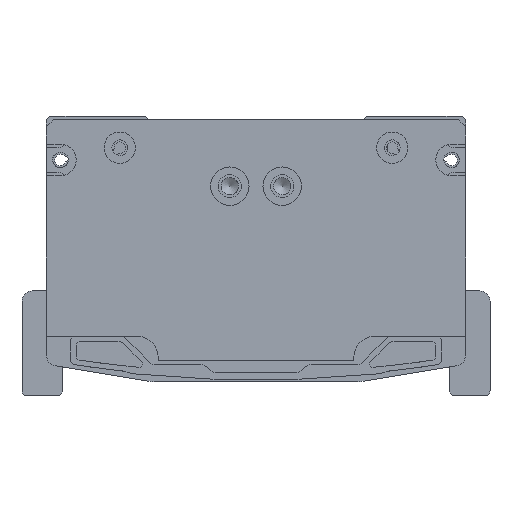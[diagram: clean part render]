
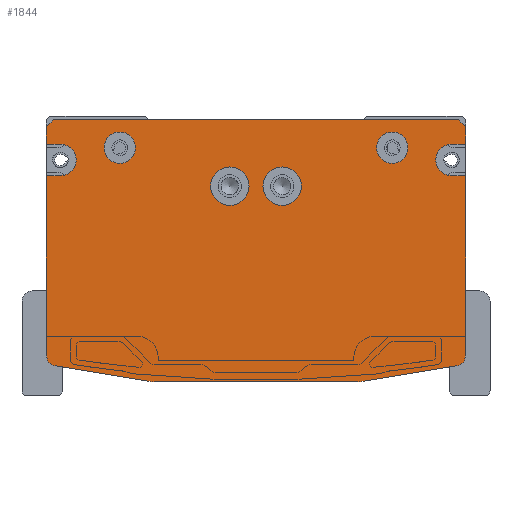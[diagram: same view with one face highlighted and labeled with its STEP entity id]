
A CAD part, front view. The second image highlights one B-rep face of the part: STEP entity #1844.
In plain terms, the highlighted planar face has unit normal (0, -1, 0).
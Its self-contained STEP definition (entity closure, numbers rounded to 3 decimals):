
#956=FACE_BOUND('',#3627,.T.);
#957=FACE_BOUND('',#3628,.T.);
#958=FACE_BOUND('',#3629,.T.);
#959=FACE_BOUND('',#3630,.T.);
#960=FACE_BOUND('',#3631,.T.);
#1844=ADVANCED_FACE('',(#956,#957,#958,#959,#960),#2454,.F.);
#2454=PLANE('',#15338);
#3627=EDGE_LOOP('',(#7138));
#3628=EDGE_LOOP('',(#7139));
#3629=EDGE_LOOP('',(#7140,#7141,#7142,#7143,#7144,#7145,#7146,#7147,#7148,
#7149,#7150,#7151,#7152,#7153,#7154,#7155,#7156,#7157,#7158,#7159));
#3630=EDGE_LOOP('',(#7160));
#3631=EDGE_LOOP('',(#7161));
#4679=CIRCLE('',#15239,5.5);
#4683=CIRCLE('',#15246,5.5);
#4686=CIRCLE('',#15252,4.5);
#4690=CIRCLE('',#15259,4.5);
#4697=CIRCLE('',#15277,4.5);
#4700=CIRCLE('',#15286,3.);
#4703=CIRCLE('',#15291,10.);
#4704=CIRCLE('',#15294,10.);
#4707=CIRCLE('',#15299,3.);
#4715=CIRCLE('',#15326,4.5);
#7138=ORIENTED_EDGE('',*,*,#11584,.T.);
#7139=ORIENTED_EDGE('',*,*,#11588,.T.);
#7140=ORIENTED_EDGE('',*,*,#11649,.T.);
#7141=ORIENTED_EDGE('',*,*,#11645,.F.);
#7142=ORIENTED_EDGE('',*,*,#11643,.F.);
#7143=ORIENTED_EDGE('',*,*,#11640,.F.);
#7144=ORIENTED_EDGE('',*,*,#11636,.T.);
#7145=ORIENTED_EDGE('',*,*,#11633,.T.);
#7146=ORIENTED_EDGE('',*,*,#11290,.F.);
#7147=ORIENTED_EDGE('',*,*,#11619,.T.);
#7148=ORIENTED_EDGE('',*,*,#11616,.T.);
#7149=ORIENTED_EDGE('',*,*,#11614,.F.);
#7150=ORIENTED_EDGE('',*,*,#11286,.F.);
#7151=ORIENTED_EDGE('',*,*,#11610,.T.);
#7152=ORIENTED_EDGE('',*,*,#11261,.F.);
#7153=ORIENTED_EDGE('',*,*,#11608,.T.);
#7154=ORIENTED_EDGE('',*,*,#11022,.F.);
#7155=ORIENTED_EDGE('',*,*,#11684,.T.);
#7156=ORIENTED_EDGE('',*,*,#11681,.T.);
#7157=ORIENTED_EDGE('',*,*,#11679,.F.);
#7158=ORIENTED_EDGE('',*,*,#11018,.F.);
#7159=ORIENTED_EDGE('',*,*,#11652,.T.);
#7160=ORIENTED_EDGE('',*,*,#11595,.F.);
#7161=ORIENTED_EDGE('',*,*,#11591,.F.);
#9500=VERTEX_POINT('',#21930);
#9501=VERTEX_POINT('',#21932);
#9504=VERTEX_POINT('',#21938);
#9505=VERTEX_POINT('',#21940);
#9628=VERTEX_POINT('',#22693);
#9629=VERTEX_POINT('',#22695);
#9644=VERTEX_POINT('',#22741);
#9645=VERTEX_POINT('',#22743);
#9648=VERTEX_POINT('',#22749);
#9649=VERTEX_POINT('',#22751);
#9848=VERTEX_POINT('',#23840);
#9852=VERTEX_POINT('',#23851);
#9855=VERTEX_POINT('',#23860);
#9858=VERTEX_POINT('',#23870);
#9866=VERTEX_POINT('',#23905);
#9868=VERTEX_POINT('',#23912);
#9879=VERTEX_POINT('',#23946);
#9881=VERTEX_POINT('',#23952);
#9884=VERTEX_POINT('',#23960);
#9886=VERTEX_POINT('',#23966);
#9887=VERTEX_POINT('',#23970);
#9890=VERTEX_POINT('',#23978);
#9902=VERTEX_POINT('',#24037);
#9904=VERTEX_POINT('',#24044);
#11018=EDGE_CURVE('',#9500,#9501,#12719,.T.);
#11022=EDGE_CURVE('',#9504,#9505,#12723,.T.);
#11261=EDGE_CURVE('',#9628,#9629,#12855,.T.);
#11286=EDGE_CURVE('',#9644,#9645,#12880,.T.);
#11290=EDGE_CURVE('',#9648,#9649,#12884,.T.);
#11584=EDGE_CURVE('',#9848,#9848,#4679,.T.);
#11588=EDGE_CURVE('',#9852,#9852,#4683,.T.);
#11591=EDGE_CURVE('',#9855,#9855,#4686,.T.);
#11595=EDGE_CURVE('',#9858,#9858,#4690,.T.);
#11608=EDGE_CURVE('',#9628,#9505,#13058,.T.);
#11610=EDGE_CURVE('',#9644,#9629,#13060,.T.);
#11614=EDGE_CURVE('',#9645,#9866,#13064,.T.);
#11616=EDGE_CURVE('',#9868,#9866,#4697,.T.);
#11619=EDGE_CURVE('',#9648,#9868,#13067,.T.);
#11633=EDGE_CURVE('',#9879,#9649,#4700,.T.);
#11636=EDGE_CURVE('',#9881,#9879,#13080,.T.);
#11640=EDGE_CURVE('',#9881,#9884,#4703,.T.);
#11643=EDGE_CURVE('',#9884,#9886,#13085,.T.);
#11645=EDGE_CURVE('',#9886,#9887,#4704,.T.);
#11649=EDGE_CURVE('',#9890,#9887,#13089,.T.);
#11652=EDGE_CURVE('',#9500,#9890,#4707,.T.);
#11679=EDGE_CURVE('',#9501,#9902,#13111,.T.);
#11681=EDGE_CURVE('',#9904,#9902,#4715,.T.);
#11684=EDGE_CURVE('',#9504,#9904,#13114,.T.);
#12719=LINE('',#21931,#13751);
#12723=LINE('',#21939,#13755);
#12855=LINE('',#22694,#13887);
#12880=LINE('',#22742,#13912);
#12884=LINE('',#22750,#13916);
#13058=LINE('',#23897,#14090);
#13060=LINE('',#23900,#14092);
#13064=LINE('',#23907,#14096);
#13067=LINE('',#23916,#14099);
#13080=LINE('',#23951,#14112);
#13085=LINE('',#23965,#14117);
#13089=LINE('',#23977,#14121);
#13111=LINE('',#24039,#14143);
#13114=LINE('',#24048,#14146);
#13751=VECTOR('',#17039,1.);
#13755=VECTOR('',#17043,1.);
#13887=VECTOR('',#17489,1.);
#13912=VECTOR('',#17528,1.);
#13916=VECTOR('',#17532,1.);
#14090=VECTOR('',#18292,1.);
#14092=VECTOR('',#18296,1.);
#14096=VECTOR('',#18302,1.);
#14099=VECTOR('',#18313,1.);
#14112=VECTOR('',#18346,1.);
#14117=VECTOR('',#18359,1.);
#14121=VECTOR('',#18371,1.);
#14143=VECTOR('',#18447,1.);
#14146=VECTOR('',#18458,1.);
#15239=AXIS2_PLACEMENT_3D('',#23839,#18217,#18218);
#15246=AXIS2_PLACEMENT_3D('',#23850,#18231,#18232);
#15252=AXIS2_PLACEMENT_3D('',#23859,#18243,#18244);
#15259=AXIS2_PLACEMENT_3D('',#23869,#18257,#18258);
#15277=AXIS2_PLACEMENT_3D('',#23911,#18307,#18308);
#15286=AXIS2_PLACEMENT_3D('',#23945,#18339,#18340);
#15291=AXIS2_PLACEMENT_3D('',#23959,#18353,#18354);
#15294=AXIS2_PLACEMENT_3D('',#23969,#18363,#18364);
#15299=AXIS2_PLACEMENT_3D('',#23982,#18377,#18378);
#15326=AXIS2_PLACEMENT_3D('',#24043,#18452,#18453);
#15338=AXIS2_PLACEMENT_3D('',#24065,#18483,#18484);
#17039=DIRECTION('',(0.,0.,1.));
#17043=DIRECTION('',(0.,0.,1.));
#17489=DIRECTION('',(1.,0.,0.));
#17528=DIRECTION('',(0.,0.,-1.));
#17532=DIRECTION('',(0.,0.,-1.));
#18217=DIRECTION('',(0.,1.,0.));
#18218=DIRECTION('',(1.,0.,0.));
#18231=DIRECTION('',(0.,1.,0.));
#18232=DIRECTION('',(1.,0.,0.));
#18243=DIRECTION('',(0.,-1.,0.));
#18244=DIRECTION('',(1.,0.,0.));
#18257=DIRECTION('',(0.,-1.,0.));
#18258=DIRECTION('',(1.,0.,0.));
#18292=DIRECTION('',(-0.707,0.,-0.707));
#18296=DIRECTION('',(-0.707,0.,0.707));
#18302=DIRECTION('',(-1.,0.,0.));
#18307=DIRECTION('',(0.,1.,0.));
#18308=DIRECTION('',(0.,0.,-1.));
#18313=DIRECTION('',(-1.,0.,0.));
#18339=DIRECTION('',(0.,-1.,0.));
#18340=DIRECTION('',(0.164,0.,-0.986));
#18346=DIRECTION('',(0.986,0.,0.164));
#18353=DIRECTION('',(0.,1.,0.));
#18354=DIRECTION('',(0.164,0.,-0.986));
#18359=DIRECTION('',(-1.,0.,0.));
#18363=DIRECTION('',(0.,1.,0.));
#18364=DIRECTION('',(0.,0.,-1.));
#18371=DIRECTION('',(0.986,0.,-0.164));
#18377=DIRECTION('',(0.,-1.,0.));
#18378=DIRECTION('',(-1.,0.,0.));
#18447=DIRECTION('',(1.,0.,0.));
#18452=DIRECTION('',(0.,1.,0.));
#18453=DIRECTION('',(0.,0.,1.));
#18458=DIRECTION('',(1.,0.,0.));
#18483=DIRECTION('',(0.,1.,0.));
#18484=DIRECTION('',(-1.,0.,0.));
#21930=CARTESIAN_POINT('',(-60.,-812.,-69.459));
#21931=CARTESIAN_POINT('',(-60.,-812.,-69.459));
#21932=CARTESIAN_POINT('',(-60.,-812.,-18.));
#21938=CARTESIAN_POINT('',(-60.,-812.,-9.));
#21939=CARTESIAN_POINT('',(-60.,-812.,-9.));
#21940=CARTESIAN_POINT('',(-60.,-812.,-4.));
#22693=CARTESIAN_POINT('',(-58.,-812.,-2.));
#22694=CARTESIAN_POINT('',(-58.,-812.,-2.));
#22695=CARTESIAN_POINT('',(58.,-812.,-2.));
#22741=CARTESIAN_POINT('',(60.,-812.,-4.));
#22742=CARTESIAN_POINT('',(60.,-812.,-4.));
#22743=CARTESIAN_POINT('',(60.,-812.,-9.));
#22749=CARTESIAN_POINT('',(60.,-812.,-18.));
#22750=CARTESIAN_POINT('',(60.,-812.,-18.));
#22751=CARTESIAN_POINT('',(60.,-812.,-69.459));
#23839=CARTESIAN_POINT('',(7.5,-812.,-21.));
#23840=CARTESIAN_POINT('',(13.,-812.,-21.));
#23850=CARTESIAN_POINT('',(-7.5,-812.,-21.));
#23851=CARTESIAN_POINT('',(-2.,-812.,-21.));
#23859=CARTESIAN_POINT('',(-39.,-812.,-10.));
#23860=CARTESIAN_POINT('',(-34.5,-812.,-10.));
#23869=CARTESIAN_POINT('',(39.,-812.,-10.));
#23870=CARTESIAN_POINT('',(43.5,-812.,-10.));
#23897=CARTESIAN_POINT('',(-58.,-812.,-2.));
#23900=CARTESIAN_POINT('',(60.,-812.,-4.));
#23905=CARTESIAN_POINT('',(56.,-812.,-9.));
#23907=CARTESIAN_POINT('',(60.,-812.,-9.));
#23911=CARTESIAN_POINT('',(56.,-812.,-13.5));
#23912=CARTESIAN_POINT('',(56.,-812.,-18.));
#23916=CARTESIAN_POINT('',(60.,-812.,-18.));
#23945=CARTESIAN_POINT('',(57.,-812.,-69.459));
#23946=CARTESIAN_POINT('',(57.493,-812.,-72.418));
#23951=CARTESIAN_POINT('',(30.816,-812.,-76.864));
#23952=CARTESIAN_POINT('',(30.816,-812.,-76.864));
#23959=CARTESIAN_POINT('',(29.172,-812.,-67.));
#23960=CARTESIAN_POINT('',(29.172,-812.,-77.));
#23965=CARTESIAN_POINT('',(29.172,-812.,-77.));
#23966=CARTESIAN_POINT('',(-29.172,-812.,-77.));
#23969=CARTESIAN_POINT('',(-29.172,-812.,-67.));
#23970=CARTESIAN_POINT('',(-30.816,-812.,-76.864));
#23977=CARTESIAN_POINT('',(-57.493,-812.,-72.418));
#23978=CARTESIAN_POINT('',(-57.493,-812.,-72.418));
#23982=CARTESIAN_POINT('',(-57.,-812.,-69.459));
#24037=CARTESIAN_POINT('',(-56.,-812.,-18.));
#24039=CARTESIAN_POINT('',(-60.,-812.,-18.));
#24043=CARTESIAN_POINT('',(-56.,-812.,-13.5));
#24044=CARTESIAN_POINT('',(-56.,-812.,-9.));
#24048=CARTESIAN_POINT('',(-60.,-812.,-9.));
#24065=CARTESIAN_POINT('',(0.,-812.,-2.));
